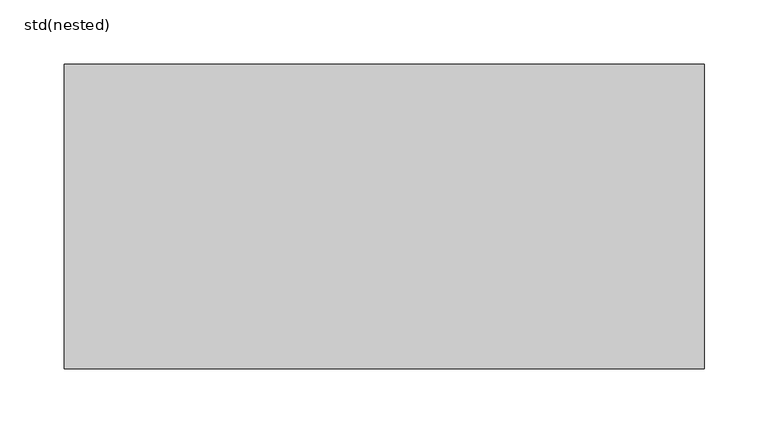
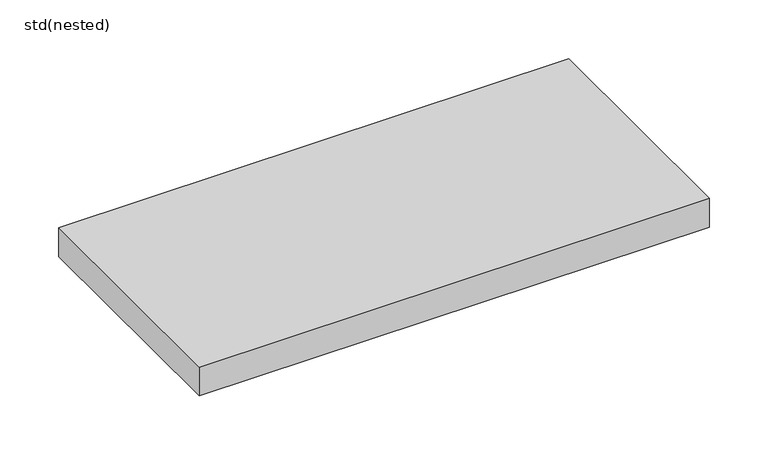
"""IFC4 building model written with IfcOpenShell, lengths in millimetres: sanitary terminal geometry, ZZZ_do not use_PF_ST_H200SK_gratings_USA_ACO : std(nested)."""

from ifc_helpers import new_model, si_unit, frame, origin, place, context, project, spatial, polyline, outline, extrude, source, transform, mapped, element, save


def std_nested_a88db52e(model_context):
    return source(origin(), model_context, "Body", "SweptSolid", [
        extrude(outline(polyline([(250.0, 119.0), (250.0, -119.0), (-250.0, -119.0), (-250.0, 119.0), (250.0, 119.0)])), frame((0.0, 0.0, -30.0), z_axis=(0.0, 0.0, 1.0), x_axis=(1.0, 0.0, 0.0)), (0.0, 0.0, 1.0), 30.0),
    ])


if __name__ == "__main__":
    model = new_model("IFC4")
    model_context = context("Model", 3, world=origin())
    ifc_project = project(units=[si_unit("LENGTHUNIT", "METRE", prefix="MILLI")], contexts=[model_context])
    site = spatial("IfcSite", under=ifc_project)
    building = spatial("IfcBuilding", under=site)
    placement = place(None, origin())
    std_nested_shape = std_nested_a88db52e(model_context)
    element("IfcSanitaryTerminal", 1, ObjectType="ZZZ_do not use_PF_ST_H200SK_gratings_USA_ACO : std(nested)", at=placement, inside=building, context=model_context, shape_type="MappedRepresentation", body=[
        mapped(std_nested_shape, transform((0.0, 0.0, 0.0), x_axis=(1.0, 0.0, 0.0), y_axis=(0.0, 1.0, 0.0), z_axis=(0.0, 0.0, 1.0))),
    ])
    save(model, "model.ifc")
